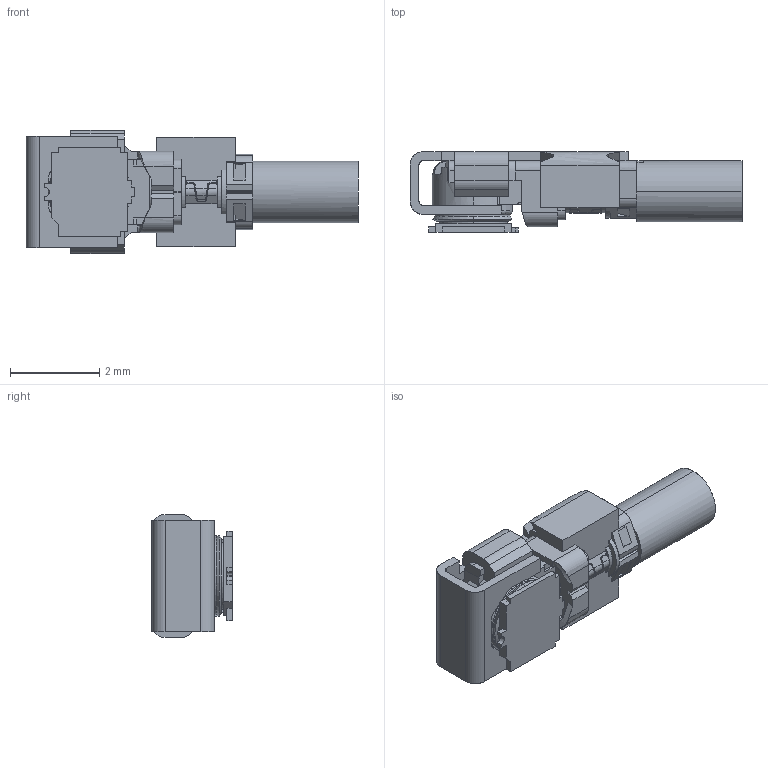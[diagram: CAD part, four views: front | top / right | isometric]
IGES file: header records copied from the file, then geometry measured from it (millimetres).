
Start section: SolidWorks IGES file using analytic representation for surfaces
Global section: file name: 136HC:\3dwork\watanabe\20231005_WEB 3D\採弌\WEB梡3D儌僨儖\MHF 4L LK\20632-001R-37+3615-000x+20449-001E-xxC MATING (LOCK) IGES R1R4R5 ALL.IGS; native system: SolidWorks 2023; preprocessor: SolidWorks 2023; author: E1480; date: 231108.141239; units: millimetre
Bounding box: 7.42 x 1.8 x 2.75 mm (x, y, z)
Surface area: 75.3 mm2 (no closed solid volume)
Topology: 0 solids, 0 shells, 349 faces, 2576 edges, 2576 vertices
Faces by surface type: bspline 245, revolution 104
